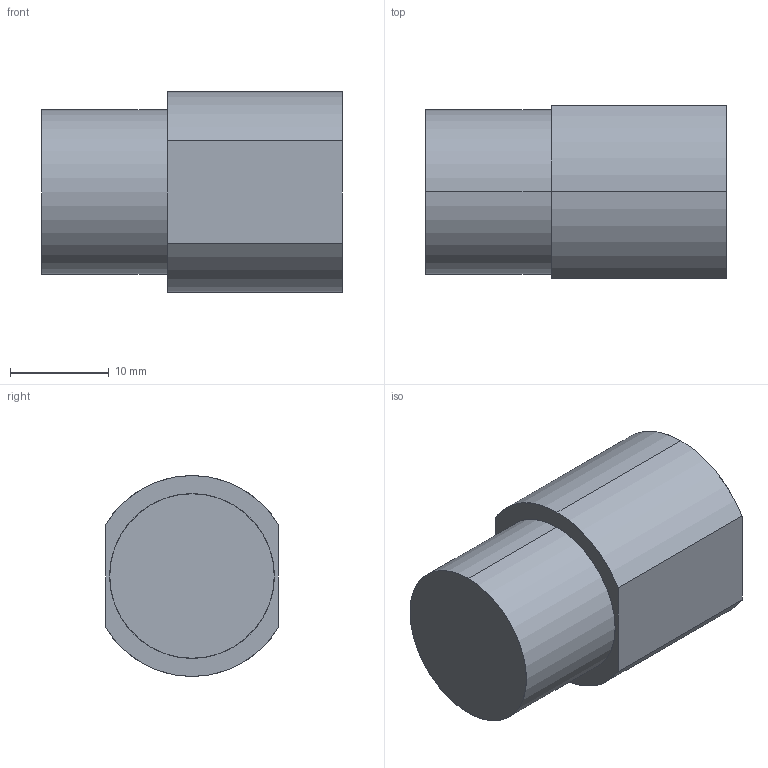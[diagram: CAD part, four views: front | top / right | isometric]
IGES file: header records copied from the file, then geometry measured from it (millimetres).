
Start section: SolidWorks IGES file using analytic representation for surfaces
Global section: file name: S:\Engineer\SW Files\R and D\Lane\Pressure Regulators\Defeatured\RBA08\Adapter- 04 WK to .250 NPT.IGS; native system: SolidWorks 2012; preprocessor: SolidWorks 2012; author: Lane.Gardner; date: 140724.083302; units: inch
Bounding box: 30.43 x 17.46 x 20.32 mm (x, y, z)
Surface area: 2911.6 mm2 (no closed solid volume)
Topology: 0 solids, 0 shells, 13 faces, 232 edges, 232 vertices
Faces by surface type: revolution 7, bspline 6
